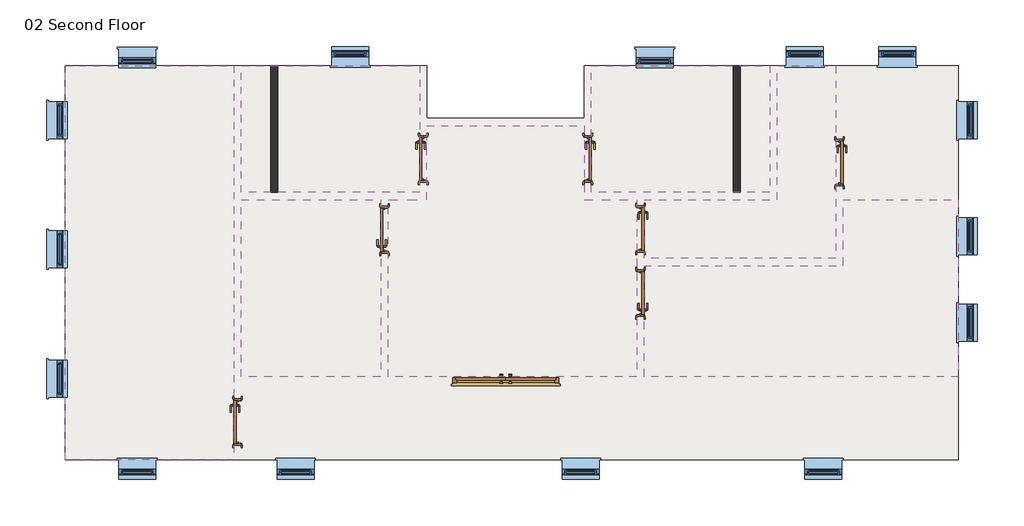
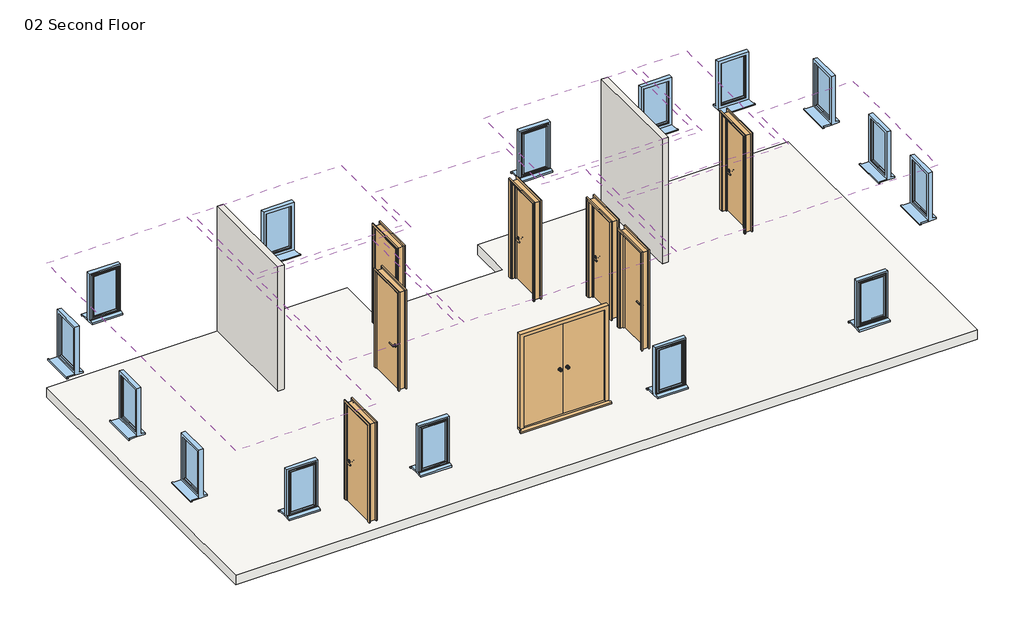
# One storey: 15 windows, 8 doors, 7 coverings, 2 walls, 1 slab.
"""IFC4 building model written with IfcOpenShell, lengths in millimetres."""

from ifc_helpers import new_model, si_unit, frame, origin, place, context, project, spatial, polyline, outline, extrude, transform, mapped, element, save
from components import extdbl_flush_1810_x_2110mm_182ebfd7, intsgl_1_810_x_2110mm_60c2a13c, intsgl_1_810_x_2110mm_5ef26f82, sgl_plain_630_x_1050mm_deep_554a1539

model = new_model("IFC4")

# Units and contexts
model_context = context("Model", 3, world=origin())
ifc_project = project(units=[si_unit("LENGTHUNIT", "METRE", prefix="MILLI")], contexts=[model_context])

# Site, building, storey
site = spatial("IfcSite", under=ifc_project)
building = spatial("IfcBuilding", under=site)
storey = spatial("IfcBuildingStorey", under=building, Name="02 Second Floor", Elevation=4013.2)

# Coverings
placement = place(None, origin())
element("IfcCovering", 1, ObjectType="600 x 600mm grid", at=placement, inside=storey, context=model_context, shape_type="SweptSolid", body=[
    extrude(outline(polyline([(-3433.0198612, 1889.6075821), (-3433.0198612, -4820.3924179), (-6308.0198612, -4820.3924179), (-6308.0198612, 1889.6075821), (-3433.0198612, 1889.6075821)])), frame((0.0, 0.0, 6713.2), z_axis=(0.0, 0.0, 1.0), x_axis=(1.0, 0.0, 0.0)), (0.0, 0.0, 1.0), 52.0),
])
element("IfcCovering", 2, ObjectType="600 x 600mm grid", at=placement, inside=storey, context=model_context, shape_type="SweptSolid", body=[
    extrude(outline(polyline([(-3308.0198612, 1889.6075821), (-270.5198612, 1889.6075821), (-270.5198612, -265.3924179), (-3308.0198612, -265.3924179), (-3308.0198612, 1889.6075821)])), frame((0.0, 0.0, 6713.2), z_axis=(0.0, 0.0, 1.0), x_axis=(1.0, 0.0, 0.0)), (0.0, 0.0, 1.0), 52.0),
])
element("IfcCovering", 3, ObjectType="600 x 600mm grid", at=placement, inside=storey, context=model_context, shape_type="SweptSolid", body=[
    extrude(outline(polyline([(-3308.0198612, -390.3924179), (-933.0198612, -390.3924179), (-933.0198612, -3407.8924179), (-3308.0198612, -3407.8924179), (-3308.0198612, -390.3924179)])), frame((0.0, 0.0, 6713.2), z_axis=(0.0, 0.0, 1.0), x_axis=(1.0, 0.0, 0.0)), (0.0, 0.0, 1.0), 52.0),
])
element("IfcCovering", 4, ObjectType="600 x 600mm grid", at=placement, inside=storey, context=model_context, shape_type="SweptSolid", body=[
    extrude(outline(polyline([(-808.0198612, -390.3924179), (-145.5198612, -390.3924179), (-145.5198612, 872.1075821), (2529.4801388, 872.1075821), (2529.4801388, -390.3924179), (3426.9801388, -390.3924179), (3426.9801388, -3407.8924179), (-808.0198612, -3407.8924179), (-808.0198612, -390.3924179)])), frame((0.0, 0.0, 6713.2), z_axis=(0.0, 0.0, 1.0), x_axis=(1.0, 0.0, 0.0)), (0.0, 0.0, 1.0), 52.0),
])
element("IfcCovering", 5, ObjectType="600 x 600mm grid", at=placement, inside=storey, context=model_context, shape_type="SweptSolid", body=[
    extrude(outline(polyline([(2654.4801388, 1889.6075821), (5691.9801388, 1889.6075821), (5691.9801388, -265.3924179), (2654.4801388, -265.3924179), (2654.4801388, 1889.6075821)])), frame((0.0, 0.0, 6713.2), z_axis=(0.0, 0.0, 1.0), x_axis=(1.0, 0.0, 0.0)), (0.0, 0.0, 1.0), 52.0),
])
element("IfcCovering", 6, ObjectType="600 x 600mm grid", at=placement, inside=storey, context=model_context, shape_type="SweptSolid", body=[
    extrude(outline(polyline([(5816.9801388, 1889.6075821), (6816.9801388, 1889.6075821), (6816.9801388, -1390.3924179), (3551.9801388, -1390.3924179), (3551.9801388, -390.3924179), (5816.9801388, -390.3924179), (5816.9801388, 1889.6075821)])), frame((0.0, 0.0, 6713.2), z_axis=(0.0, 0.0, 1.0), x_axis=(1.0, 0.0, 0.0)), (0.0, 0.0, 1.0), 52.0),
])
element("IfcCovering", 7, ObjectType="600 x 600mm grid", at=placement, inside=storey, context=model_context, shape_type="SweptSolid", body=[
    extrude(outline(polyline([(8901.9801388, -390.3924179), (8901.9801388, -3407.8924179), (3551.9801388, -3407.8924179), (3551.9801388, -1515.3924179), (6941.9801388, -1515.3924179), (6941.9801388, -390.3924179), (8901.9801388, -390.3924179)])), frame((0.0, 0.0, 6713.2), z_axis=(0.0, 0.0, 1.0), x_axis=(1.0, 0.0, 0.0)), (0.0, 0.0, 1.0), 52.0),
])

# Doors
extdbl_flush_1810_x_2110mm_shape = extdbl_flush_1810_x_2110mm_182ebfd7(model_context)
element("IfcDoor", 8, ObjectType="ExtDbl Flush : 1810 x 2110mm", at=placement, inside=storey, context=model_context, shape_type="MappedRepresentation", body=[
    mapped(extdbl_flush_1810_x_2110mm_shape, transform((1196.9801388, -3470.3924179, 4013.2), x_axis=(1.0, 0.0, 0.0), y_axis=(0.0, 1.0, 0.0), z_axis=(0.0, 0.0, 1.0))),
])
intsgl_1_810_x_2110mm_shape = intsgl_1_810_x_2110mm_60c2a13c(model_context)
element("IfcDoor", 9, ObjectType="IntSgl (1) : 810 x 2110mm", at=placement, inside=storey, context=model_context, shape_type="MappedRepresentation", body=[
    mapped(intsgl_1_810_x_2110mm_shape, transform((2591.9801388, 303.3575821, 4013.2), x_axis=(0.0, -1.0, 0.0), y_axis=(1.0, 0.0, 0.0), z_axis=(0.0, 0.0, 1.0))),
])
element("IfcDoor", 10, ObjectType="IntSgl (1) : 810 x 2110mm", at=placement, inside=storey, context=model_context, shape_type="MappedRepresentation", body=[
    mapped(intsgl_1_810_x_2110mm_shape, transform((-870.5198612, -902.8924179, 4013.2), x_axis=(0.0, 1.0, 0.0), y_axis=(-1.0, 0.0, 0.0), z_axis=(0.0, 0.0, 1.0))),
])
element("IfcDoor", 11, ObjectType="IntSgl (1) : 810 x 2110mm", at=placement, inside=storey, context=model_context, shape_type="MappedRepresentation", body=[
    mapped(intsgl_1_810_x_2110mm_shape, transform((3489.4801388, -890.3924179, 4013.2), x_axis=(0.0, -1.0, 0.0), y_axis=(1.0, 0.0, 0.0), z_axis=(0.0, 0.0, 1.0))),
])
intsgl_1_810_x_2110mm_2_shape = intsgl_1_810_x_2110mm_5ef26f82(model_context)
element("IfcDoor", 12, ObjectType="IntSgl (1) : 810 x 2110mm", at=placement, inside=storey, context=model_context, shape_type="MappedRepresentation", body=[
    mapped(intsgl_1_810_x_2110mm_2_shape, transform((-208.0198612, 303.3575821, 4013.2), x_axis=(0.0, -1.0, 0.0), y_axis=(1.0, 0.0, 0.0), z_axis=(0.0, 0.0, 1.0))),
])
element("IfcDoor", 13, ObjectType="IntSgl (1) : 810 x 2110mm", at=placement, inside=storey, context=model_context, shape_type="MappedRepresentation", body=[
    mapped(intsgl_1_810_x_2110mm_2_shape, transform((3489.4801388, -1982.8924179, 4013.2), x_axis=(0.0, 1.0, 0.0), y_axis=(-1.0, 0.0, 0.0), z_axis=(0.0, 0.0, 1.0))),
])
element("IfcDoor", 14, ObjectType="IntSgl (1) : 810 x 2110mm", at=placement, inside=storey, context=model_context, shape_type="MappedRepresentation", body=[
    mapped(intsgl_1_810_x_2110mm_shape, transform((6879.4801388, 239.6075821, 4013.2), x_axis=(0.0, -1.0, 0.0), y_axis=(1.0, 0.0, 0.0), z_axis=(0.0, 0.0, 1.0))),
])
element("IfcDoor", 15, ObjectType="IntSgl (1) : 810 x 2110mm", at=placement, inside=storey, context=model_context, shape_type="MappedRepresentation", body=[
    mapped(intsgl_1_810_x_2110mm_2_shape, transform((-3370.5198612, -4176.6424179, 4013.2), x_axis=(0.0, -1.0, 0.0), y_axis=(1.0, 0.0, 0.0), z_axis=(0.0, 0.0, 1.0))),
])

# Slab
element("IfcSlab", 16, ObjectType="160mm Concrete with Corus-ComFlor 51", at=placement, inside=storey, context=model_context, shape_type="SweptSolid", body=[
    extrude(outline(polyline([(8901.9801388, -4820.3924179), (-6308.0198612, -4820.3924179), (-6308.0198612, 1889.6075821), (-145.5198612, 1889.6075821), (-145.5198612, 997.1075821), (2529.4801388, 997.1075821), (2529.4801388, 1889.6075821), (8901.9801388, 1889.6075821), (8901.9801388, -4820.3924179)])), frame((0.0, 0.0, 3802.2), z_axis=(0.0, 0.0, 1.0), x_axis=(1.0, 0.0, 0.0)), (0.0, 0.0, 1.0), 211.0),
])

# Walls
element("IfcWall", 17, ObjectType="Partn - p 100 p - Block", at=placement, inside=storey, context=model_context, shape_type="SweptSolid", body=[
    extrude(outline(polyline([(5066.9801388, -265.3924179), (5066.9801388, 1889.6075821), (5191.9801388, 1889.6075821), (5191.9801388, -265.3924179), (5066.9801388, -265.3924179)])), frame((0.0, 0.0, 4013.2), z_axis=(0.0, 0.0, 1.0), x_axis=(1.0, 0.0, 0.0)), (0.0, 0.0, 1.0), 2700.0),
])
element("IfcWall", 18, ObjectType="Partn - p 100 p - Block", at=placement, inside=storey, context=model_context, shape_type="SweptSolid", body=[
    extrude(outline(polyline([(-2683.0198612, 1889.6075821), (-2683.0198612, -265.3924179), (-2808.0198612, -265.3924179), (-2808.0198612, 1889.6075821), (-2683.0198612, 1889.6075821)])), frame((0.0, 0.0, 4013.2), z_axis=(0.0, 0.0, 1.0), x_axis=(1.0, 0.0, 0.0)), (0.0, 0.0, 1.0), 2700.0),
])

# Windows
sgl_plain_630_x_1050mm_deep_shape = sgl_plain_630_x_1050mm_deep_554a1539(model_context)
element("IfcWindow", 19, ObjectType="Sgl Plain : 630 x 1050mm Deep", at=placement, inside=storey, context=model_context, shape_type="MappedRepresentation", body=[
    mapped(sgl_plain_630_x_1050mm_deep_shape, transform((6605.7801388, -4956.9358501, 4013.2), x_axis=(-1.0, 0.0, 0.0), y_axis=(0.0, -1.0, 0.0), z_axis=(0.0, 0.0, 1.0))),
])
element("IfcWindow", 20, ObjectType="Sgl Plain : 630 x 1050mm Deep", at=placement, inside=storey, context=model_context, shape_type="MappedRepresentation", body=[
    mapped(sgl_plain_630_x_1050mm_deep_shape, transform((2470.5801388, -4956.9358501, 4013.2), x_axis=(-1.0, 0.0, 0.0), y_axis=(0.0, -1.0, 0.0), z_axis=(0.0, 0.0, 1.0))),
])
element("IfcWindow", 21, ObjectType="Sgl Plain : 630 x 1050mm Deep", at=placement, inside=storey, context=model_context, shape_type="MappedRepresentation", body=[
    mapped(sgl_plain_630_x_1050mm_deep_shape, transform((-2383.4198612, -4956.9358501, 4013.2), x_axis=(-1.0, 0.0, 0.0), y_axis=(0.0, -1.0, 0.0), z_axis=(0.0, 0.0, 1.0))),
])
element("IfcWindow", 22, ObjectType="Sgl Plain : 630 x 1050mm Deep", at=placement, inside=storey, context=model_context, shape_type="MappedRepresentation", body=[
    mapped(sgl_plain_630_x_1050mm_deep_shape, transform((-5078.6198612, -4956.9358501, 4013.2), x_axis=(-1.0, 0.0, 0.0), y_axis=(0.0, -1.0, 0.0), z_axis=(0.0, 0.0, 1.0))),
])
element("IfcWindow", 23, ObjectType="Sgl Plain : 630 x 1050mm Deep", at=placement, inside=storey, context=model_context, shape_type="MappedRepresentation", body=[
    mapped(sgl_plain_630_x_1050mm_deep_shape, transform((-1453.6198612, 2026.1510143, 4013.2), x_axis=(1.0, 0.0, 0.0), y_axis=(0.0, 1.0, 0.0), z_axis=(0.0, 0.0, 1.0))),
])
element("IfcWindow", 24, ObjectType="Sgl Plain : 630 x 1050mm Deep", at=placement, inside=storey, context=model_context, shape_type="MappedRepresentation", body=[
    mapped(sgl_plain_630_x_1050mm_deep_shape, transform((6284.3801388, 2026.1510143, 4013.2), x_axis=(1.0, 0.0, 0.0), y_axis=(0.0, 1.0, 0.0), z_axis=(0.0, 0.0, 1.0))),
])
element("IfcWindow", 25, ObjectType="Sgl Plain : 630 x 1050mm Deep", at=placement, inside=storey, context=model_context, shape_type="MappedRepresentation", body=[
    mapped(sgl_plain_630_x_1050mm_deep_shape, transform((7866.5801388, 2026.1510143, 4013.2), x_axis=(1.0, 0.0, 0.0), y_axis=(0.0, 1.0, 0.0), z_axis=(0.0, 0.0, 1.0))),
])
element("IfcWindow", 26, ObjectType="Sgl Plain : 630 x 1050mm Deep", at=placement, inside=storey, context=model_context, shape_type="MappedRepresentation", body=[
    mapped(sgl_plain_630_x_1050mm_deep_shape, transform((9038.523571, 965.0075821, 4013.2), x_axis=(0.0, -1.0, 0.0), y_axis=(1.0, 0.0, 0.0), z_axis=(0.0, 0.0, 1.0))),
])
element("IfcWindow", 27, ObjectType="Sgl Plain : 630 x 1050mm Deep", at=placement, inside=storey, context=model_context, shape_type="MappedRepresentation", body=[
    mapped(sgl_plain_630_x_1050mm_deep_shape, transform((9038.523571, -1010.1924179, 4013.2), x_axis=(0.0, -1.0, 0.0), y_axis=(1.0, 0.0, 0.0), z_axis=(0.0, 0.0, 1.0))),
])
element("IfcWindow", 28, ObjectType="Sgl Plain : 630 x 1050mm Deep", at=placement, inside=storey, context=model_context, shape_type="MappedRepresentation", body=[
    mapped(sgl_plain_630_x_1050mm_deep_shape, transform((9038.523571, -2483.2924179, 4013.2), x_axis=(0.0, -1.0, 0.0), y_axis=(1.0, 0.0, 0.0), z_axis=(0.0, 0.0, 1.0))),
])
element("IfcWindow", 29, ObjectType="Sgl Plain : 630 x 1050mm Deep", at=placement, inside=storey, context=model_context, shape_type="MappedRepresentation", body=[
    mapped(sgl_plain_630_x_1050mm_deep_shape, transform((-6461.476429, -3438.5924179, 4013.2), x_axis=(0.0, -1.0, 0.0), y_axis=(1.0, 0.0, 0.0), z_axis=(0.0, 0.0, 1.0))),
])
element("IfcWindow", 30, ObjectType="Sgl Plain : 630 x 1050mm Deep", at=placement, inside=storey, context=model_context, shape_type="MappedRepresentation", body=[
    mapped(sgl_plain_630_x_1050mm_deep_shape, transform((-6461.476429, -1233.7924179, 4013.2), x_axis=(0.0, -1.0, 0.0), y_axis=(1.0, 0.0, 0.0), z_axis=(0.0, 0.0, 1.0))),
])
element("IfcWindow", 31, ObjectType="Sgl Plain : 630 x 1050mm Deep", at=placement, inside=storey, context=model_context, shape_type="MappedRepresentation", body=[
    mapped(sgl_plain_630_x_1050mm_deep_shape, transform((-6461.476429, 965.0075821, 4013.2), x_axis=(0.0, -1.0, 0.0), y_axis=(1.0, 0.0, 0.0), z_axis=(0.0, 0.0, 1.0))),
])
element("IfcWindow", 32, ObjectType="Sgl Plain : 630 x 1050mm Deep", at=placement, inside=storey, context=model_context, shape_type="MappedRepresentation", body=[
    mapped(sgl_plain_630_x_1050mm_deep_shape, transform((-5078.6198612, 2043.0641499, 4013.2), x_axis=(-1.0, 0.0, 0.0), y_axis=(0.0, -1.0, 0.0), z_axis=(0.0, 0.0, 1.0))),
])
element("IfcWindow", 33, ObjectType="Sgl Plain : 630 x 1050mm Deep", at=placement, inside=storey, context=model_context, shape_type="MappedRepresentation", body=[
    mapped(sgl_plain_630_x_1050mm_deep_shape, transform((3731.4801388, 2043.0641499, 4013.2), x_axis=(-1.0, 0.0, 0.0), y_axis=(0.0, -1.0, 0.0), z_axis=(0.0, 0.0, 1.0))),
])

save(model, "model.ifc")
